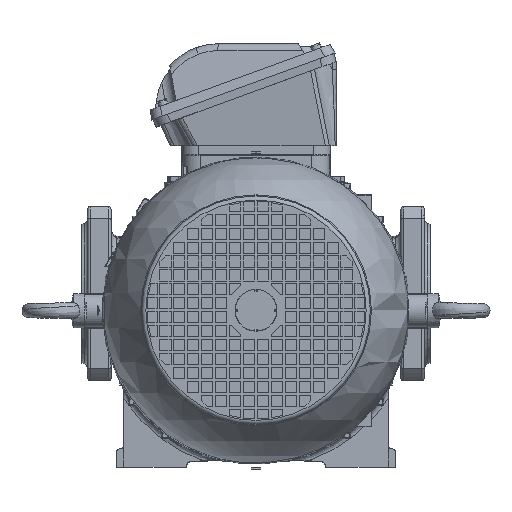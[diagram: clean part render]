
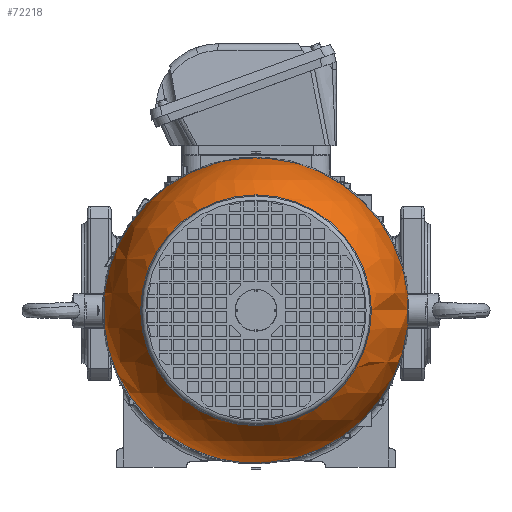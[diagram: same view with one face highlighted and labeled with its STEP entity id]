
A CAD part, top view. The second image highlights one B-rep face of the part: STEP entity #72218.
In plain terms, the highlighted spherical face has radius 109.545 mm.
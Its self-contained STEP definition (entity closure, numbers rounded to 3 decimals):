
#19=SPHERICAL_SURFACE('',#76792,109.545);
#7734=FACE_BOUND('',#15163,.T.);
#10967=FACE_OUTER_BOUND('',#15162,.T.);
#15162=EDGE_LOOP('',(#52966,#52967));
#15163=EDGE_LOOP('',(#52968,#52969));
#30924=CIRCLE('',#76776,109.507);
#30935=CIRCLE('',#76793,11.444);
#30936=CIRCLE('',#76794,82.833);
#30937=CIRCLE('',#76795,82.833);
#33986=VERTEX_POINT('',#111228);
#33987=VERTEX_POINT('',#111229);
#34024=VERTEX_POINT('',#111502);
#34025=VERTEX_POINT('',#111503);
#41193=EDGE_CURVE('',#33986,#33987,#30924,.T.);
#41236=EDGE_CURVE('',#33987,#33986,#30935,.T.);
#41237=EDGE_CURVE('',#34024,#34025,#30936,.T.);
#41238=EDGE_CURVE('',#34025,#34024,#30937,.T.);
#52966=ORIENTED_EDGE('',*,*,#41193,.T.);
#52967=ORIENTED_EDGE('',*,*,#41236,.T.);
#52968=ORIENTED_EDGE('',*,*,#41237,.F.);
#52969=ORIENTED_EDGE('',*,*,#41238,.F.);
#72218=ADVANCED_FACE('',(#10967,#7734),#19,.T.);
#76776=AXIS2_PLACEMENT_3D('',#111230,#84425,#84426);
#76792=AXIS2_PLACEMENT_3D('',#111500,#84472,#84473);
#76793=AXIS2_PLACEMENT_3D('',#111501,#84474,#84475);
#76794=AXIS2_PLACEMENT_3D('',#111504,#84476,#84477);
#76795=AXIS2_PLACEMENT_3D('',#111505,#84478,#84479);
#84425=DIRECTION('center_axis',(0.,0.,
1.));
#84426=DIRECTION('ref_axis',(0.,1.,0.));
#84472=DIRECTION('center_axis',(0.,-1.,0.));
#84473=DIRECTION('ref_axis',(-1.,0.,0.));
#84474=DIRECTION('center_axis',(-1.,0.,0.));
#84475=DIRECTION('ref_axis',(0.,1.,0.));
#84476=DIRECTION('center_axis',(0.,0.,
1.));
#84477=DIRECTION('ref_axis',(0.,1.,0.));
#84478=DIRECTION('center_axis',(0.,0.,
1.));
#84479=DIRECTION('ref_axis',(0.,1.,0.));
#111228=CARTESIAN_POINT('',(108.945,11.079,328.268));
#111229=CARTESIAN_POINT('',(108.945,-11.079,328.268));
#111230=CARTESIAN_POINT('Origin',(0.,0.,
328.268));
#111500=CARTESIAN_POINT('Origin',(0.,0.,
325.4));
#111501=CARTESIAN_POINT('Origin',(108.945,0.,
325.4));
#111502=CARTESIAN_POINT('',(0.,82.833,397.084));
#111503=CARTESIAN_POINT('',(0.,-82.833,397.084));
#111504=CARTESIAN_POINT('Origin',(0.,0.,
397.084));
#111505=CARTESIAN_POINT('Origin',(0.,0.,
397.084));
